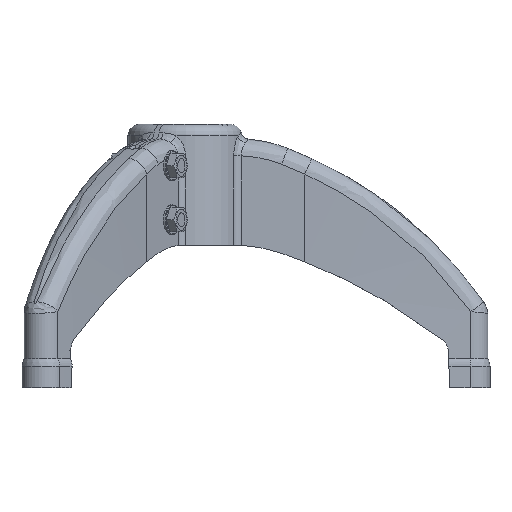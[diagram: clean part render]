
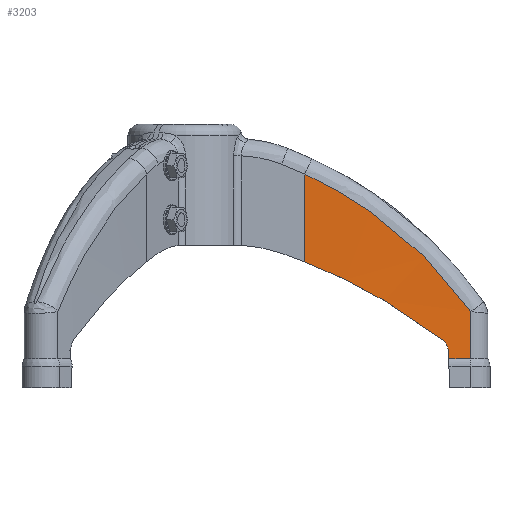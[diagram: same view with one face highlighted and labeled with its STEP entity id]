
A CAD part, left-side view. The second image highlights one B-rep face of the part: STEP entity #3203.
In plain terms, the highlighted cylindrical face has radius 1500 mm (diameter 3000 mm), a partial arc.
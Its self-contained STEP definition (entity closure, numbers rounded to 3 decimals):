
#195=B_SPLINE_CURVE_WITH_KNOTS('',3,(#8006,#8007,#8008,#8009,#8010,#8011,
#8012,#8013,#8014,#8015,#8016,#8017,#8018,#8019,#8020,#8021,#8022,#8023,
#8024,#8025,#8026,#8027),.UNSPECIFIED.,.F.,.F.,(4,2,2,2,2,2,2,2,2,2,4),
(0.,0.125,0.25,0.375,0.406,
0.438,0.5,0.625,0.75,
0.875,1.),.UNSPECIFIED.);
#196=B_SPLINE_CURVE_WITH_KNOTS('',3,(#8029,#8030,#8031,#8032,#8033,#8034,
#8035,#8036,#8037,#8038),.UNSPECIFIED.,.F.,.F.,(4,3,3,4),(-150.078,
-149.5,-141.37,-138.808),.UNSPECIFIED.);
#197=B_SPLINE_CURVE_WITH_KNOTS('',3,(#8040,#8041,#8042,#8043,#8044,#8045,
#8046,#8047,#8048,#8049),.UNSPECIFIED.,.F.,.F.,(4,2,2,2,4),(-6.282,
-6.114,-5.895,-5.502,-5.419),
 .UNSPECIFIED.);
#198=B_SPLINE_CURVE_WITH_KNOTS('',3,(#8051,#8052,#8053,#8054),
 .UNSPECIFIED.,.F.,.F.,(4,4),(-3.578,-3.032),
 .UNSPECIFIED.);
#375=LINE('',#7974,#491);
#378=LINE('',#8057,#494);
#491=VECTOR('',#4150,1.);
#494=VECTOR('',#4159,1.);
#538=CYLINDRICAL_SURFACE('',#3523,1500.);
#689=FACE_OUTER_BOUND('',#891,.T.);
#891=EDGE_LOOP('',(#2478,#2479,#2480,#2481,#2482,#2483,#2484));
#1087=CIRCLE('',#3524,1500.);
#1369=VERTEX_POINT('',#7968);
#1370=VERTEX_POINT('',#7973);
#1375=VERTEX_POINT('',#8005);
#1376=VERTEX_POINT('',#8028);
#1377=VERTEX_POINT('',#8039);
#1378=VERTEX_POINT('',#8050);
#1379=VERTEX_POINT('',#8055);
#1762=EDGE_CURVE('',#1370,#1369,#375,.T.);
#1769=EDGE_CURVE('',#1375,#1370,#195,.T.);
#1770=EDGE_CURVE('',#1376,#1369,#196,.T.);
#1771=EDGE_CURVE('',#1377,#1376,#197,.T.);
#1772=EDGE_CURVE('',#1377,#1378,#198,.T.);
#1773=EDGE_CURVE('',#1378,#1379,#1087,.F.);
#1774=EDGE_CURVE('',#1375,#1379,#378,.T.);
#2478=ORIENTED_EDGE('',*,*,#1769,.T.);
#2479=ORIENTED_EDGE('',*,*,#1762,.T.);
#2480=ORIENTED_EDGE('',*,*,#1770,.F.);
#2481=ORIENTED_EDGE('',*,*,#1771,.F.);
#2482=ORIENTED_EDGE('',*,*,#1772,.T.);
#2483=ORIENTED_EDGE('',*,*,#1773,.T.);
#2484=ORIENTED_EDGE('',*,*,#1774,.F.);
#3203=ADVANCED_FACE('',(#689),#538,.T.);
#3523=AXIS2_PLACEMENT_3D('',#8004,#4155,#4156);
#3524=AXIS2_PLACEMENT_3D('',#8056,#4157,#4158);
#4150=DIRECTION('',(0.,0.,-1.));
#4155=DIRECTION('center_axis',(0.,0.,-1.));
#4156=DIRECTION('ref_axis',(-1.,0.,0.));
#4157=DIRECTION('center_axis',(0.,0.,-1.));
#4158=DIRECTION('ref_axis',(-1.,0.,0.));
#4159=DIRECTION('',(0.,0.,-1.));
#7968=CARTESIAN_POINT('',(-17.5,-84.268,88.398));
#7973=CARTESIAN_POINT('',(-17.5,-84.268,150.141));
#7974=CARTESIAN_POINT('',(-17.5,-84.268,185.));
#8004=CARTESIAN_POINT('Origin',(1482.5,-84.268,185.));
#8005=CARTESIAN_POINT('',(-12.95,-201.011,53.466));
#8006=CARTESIAN_POINT('Ctrl Pts',(-12.95,-201.011,53.466));
#8007=CARTESIAN_POINT('Ctrl Pts',(-13.239,-197.309,58.722));
#8008=CARTESIAN_POINT('Ctrl Pts',(-13.527,-193.444,63.834));
#8009=CARTESIAN_POINT('Ctrl Pts',(-14.093,-185.395,73.777));
#8010=CARTESIAN_POINT('Ctrl Pts',(-14.37,-181.21,78.607));
#8011=CARTESIAN_POINT('Ctrl Pts',(-14.908,-172.522,87.987));
#8012=CARTESIAN_POINT('Ctrl Pts',(-15.167,-168.018,92.537));
#8013=CARTESIAN_POINT('Ctrl Pts',(-15.475,-162.187,98.048));
#8014=CARTESIAN_POINT('Ctrl Pts',(-15.536,-161.011,99.141));
#8015=CARTESIAN_POINT('Ctrl Pts',(-15.656,-158.638,101.309));
#8016=CARTESIAN_POINT('Ctrl Pts',(-15.715,-157.443,102.383));
#8017=CARTESIAN_POINT('Ctrl Pts',(-15.888,-153.837,105.57));
#8018=CARTESIAN_POINT('Ctrl Pts',(-15.999,-151.403,107.65));
#8019=CARTESIAN_POINT('Ctrl Pts',(-16.318,-144.015,113.756));
#8020=CARTESIAN_POINT('Ctrl Pts',(-16.511,-138.972,117.649));
#8021=CARTESIAN_POINT('Ctrl Pts',(-16.852,-128.655,125.088));
#8022=CARTESIAN_POINT('Ctrl Pts',(-17.,-123.381,128.633));
#8023=CARTESIAN_POINT('Ctrl Pts',(-17.242,-112.603,135.377));
#8024=CARTESIAN_POINT('Ctrl Pts',(-17.337,-107.099,138.576));
#8025=CARTESIAN_POINT('Ctrl Pts',(-17.466,-95.859,144.623));
#8026=CARTESIAN_POINT('Ctrl Pts',(-17.5,-90.123,147.471));
#8027=CARTESIAN_POINT('Ctrl Pts',(-17.5,-84.268,150.141));
#8028=CARTESIAN_POINT('',(-14.364,-181.216,33.46));
#8029=CARTESIAN_POINT('Ctrl Pts',(-14.364,-181.216,33.46));
#8030=CARTESIAN_POINT('Ctrl Pts',(-14.462,-179.703,34.624));
#8031=CARTESIAN_POINT('Ctrl Pts',(-14.558,-178.181,35.776));
#8032=CARTESIAN_POINT('Ctrl Pts',(-14.652,-176.652,36.917));
#8033=CARTESIAN_POINT('Ctrl Pts',(-15.982,-155.112,52.992));
#8034=CARTESIAN_POINT('Ctrl Pts',(-16.939,-131.978,66.87));
#8035=CARTESIAN_POINT('Ctrl Pts',(-17.318,-107.619,78.32));
#8036=CARTESIAN_POINT('Ctrl Pts',(-17.438,-99.943,81.928));
#8037=CARTESIAN_POINT('Ctrl Pts',(-17.5,-92.15,85.292));
#8038=CARTESIAN_POINT('Ctrl Pts',(-17.5,-84.268,88.398));
#8039=CARTESIAN_POINT('',(-14.107,-185.107,26.08));
#8040=CARTESIAN_POINT('Ctrl Pts',(-14.107,-185.107,26.08));
#8041=CARTESIAN_POINT('Ctrl Pts',(-14.109,-185.078,26.636));
#8042=CARTESIAN_POINT('Ctrl Pts',(-14.114,-185.001,27.189));
#8043=CARTESIAN_POINT('Ctrl Pts',(-14.133,-184.718,28.449));
#8044=CARTESIAN_POINT('Ctrl Pts',(-14.149,-184.479,29.144));
#8045=CARTESIAN_POINT('Ctrl Pts',(-14.207,-183.606,30.988));
#8046=CARTESIAN_POINT('Ctrl Pts',(-14.259,-182.82,32.048));
#8047=CARTESIAN_POINT('Ctrl Pts',(-14.336,-181.648,33.114));
#8048=CARTESIAN_POINT('Ctrl Pts',(-14.35,-181.435,33.291));
#8049=CARTESIAN_POINT('Ctrl Pts',(-14.364,-181.216,33.46));
#8050=CARTESIAN_POINT('',(-14.086,-185.414,20.268));
#8051=CARTESIAN_POINT('Ctrl Pts',(-14.107,-185.107,26.08));
#8052=CARTESIAN_POINT('Ctrl Pts',(-14.1,-185.21,24.136));
#8053=CARTESIAN_POINT('Ctrl Pts',(-14.093,-185.312,22.198));
#8054=CARTESIAN_POINT('Ctrl Pts',(-14.086,-185.414,20.268));
#8055=CARTESIAN_POINT('',(-12.95,-201.011,20.268));
#8056=CARTESIAN_POINT('Origin',(1482.5,-84.268,20.268));
#8057=CARTESIAN_POINT('',(-12.95,-201.011,185.));
